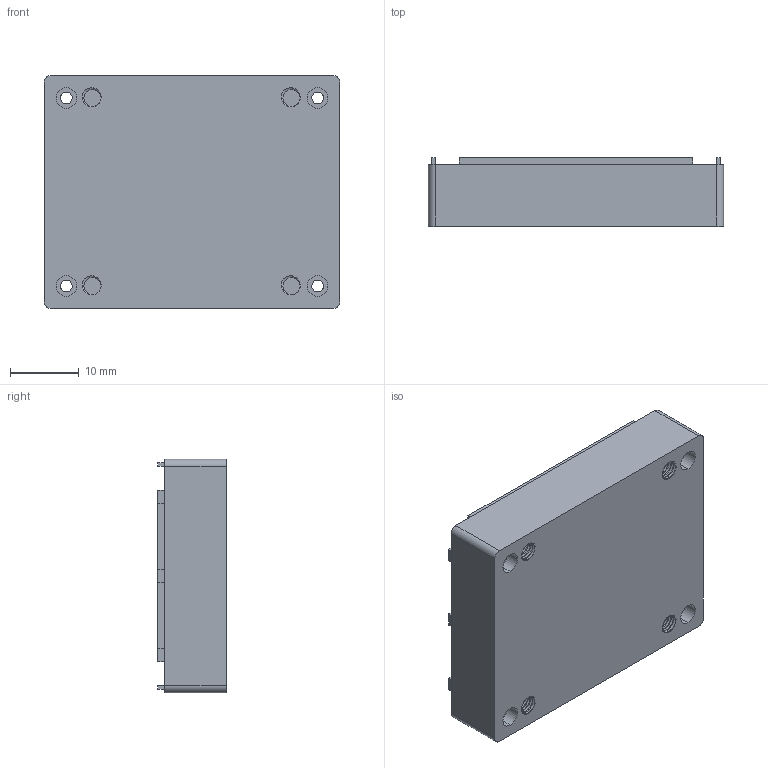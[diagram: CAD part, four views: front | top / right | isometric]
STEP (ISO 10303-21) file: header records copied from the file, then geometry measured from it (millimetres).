
FILE_DESCRIPTION (( 'STEP AP214' ), '1' );
FILE_NAME ('HereX bottom casing.STEP', '2026-03-06T02:59:30', ( '' ), ( '' ), 'SwSTEP 2.0', 'SolidWorks 2025', '' );
FILE_SCHEMA (( 'AUTOMOTIVE_DESIGN' ));
Length unit declared in the file: millimetre
Products named in the file (1): HereX bottom casing
Bounding box: 43 x 10 x 34 mm (x, y, z)
Volume: 2970.5 mm3; surface area: 5924.9 mm2
Topology: 1 solids, 1 shells, 169 faces, 470 edges, 312 vertices
Faces by surface type: cylinder 98, plane 59, bspline 12
Entity records: 8863 total; most frequent: CARTESIAN_POINT 4808, ORIENTED_EDGE 940, DIRECTION 754, EDGE_CURVE 470, VERTEX_POINT 312, AXIS2_PLACEMENT_3D 254, VECTOR 246, LINE 246
